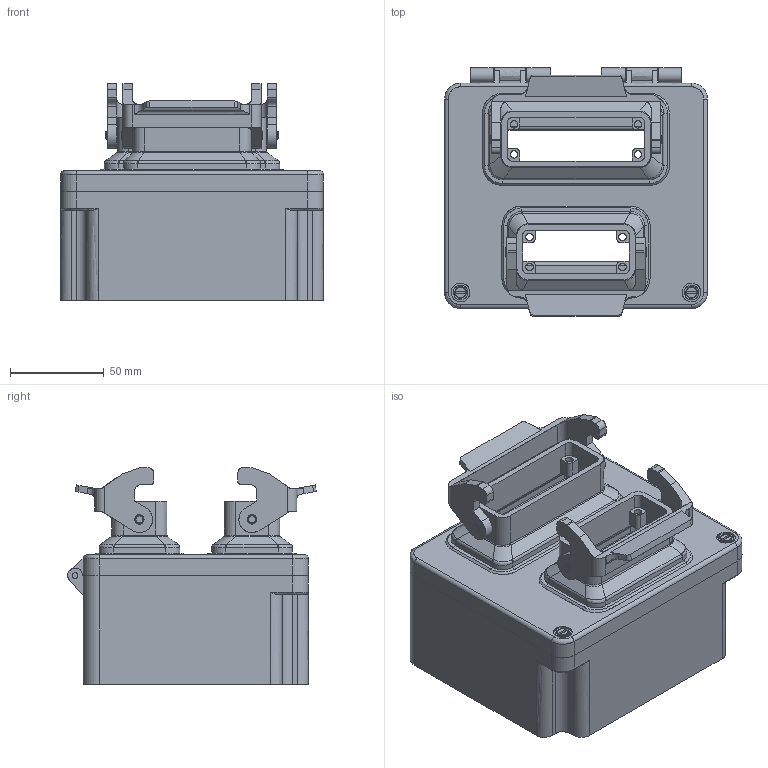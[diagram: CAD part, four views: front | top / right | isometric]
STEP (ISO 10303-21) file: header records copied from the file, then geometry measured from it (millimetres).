
FILE_DESCRIPTION( ( 'STEP AP214' ), '1' );
FILE_NAME( 'C:/Dokumente und Einstellungen/Administrator/Desktop/47 Kabelboxen/G3/1/gr_3_16a_10a-bb.stp', '2006-09-10T16:24:10', ( ' ' ), ( ' ' ), 'XStep 1.0', 'VISICAD', ' ' );
FILE_SCHEMA( ( 'automotive_design' ) );
Length unit declared in the file: millimetre
Products named in the file (1057): 1; 2; 3; 4; 5; 6; 7; 8; 9; 10; 11; 12; 13; 14; 15; 16; 17; 18; 19; 20; 21; 22; 23; 24; 25; 26; 27; 28; 29; 30; 31; 32; 33; 34; 35; 36; 37; 38; 39; 40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
Bounding box: 140 x 132.44 x 115.52 mm (x, y, z)
Surface area: 164470.6 mm2 (no closed solid volume)
Topology: 0 solids, 1067 shells, 1067 faces, 5480 edges, 5480 vertices
Faces by surface type: bspline 504, plane 413, revolution 104, cylinder 46
Entity records: 120122 total; most frequent: CARTESIAN_POINT 57906, DIRECTION 6596, ORIENTED_EDGE 5480, EDGE_CURVE 5480, VERTEX_POINT 5480, LINE 2828, VECTOR 2828, B_SPLINE_CURVE_WITH_KNOTS 2424
